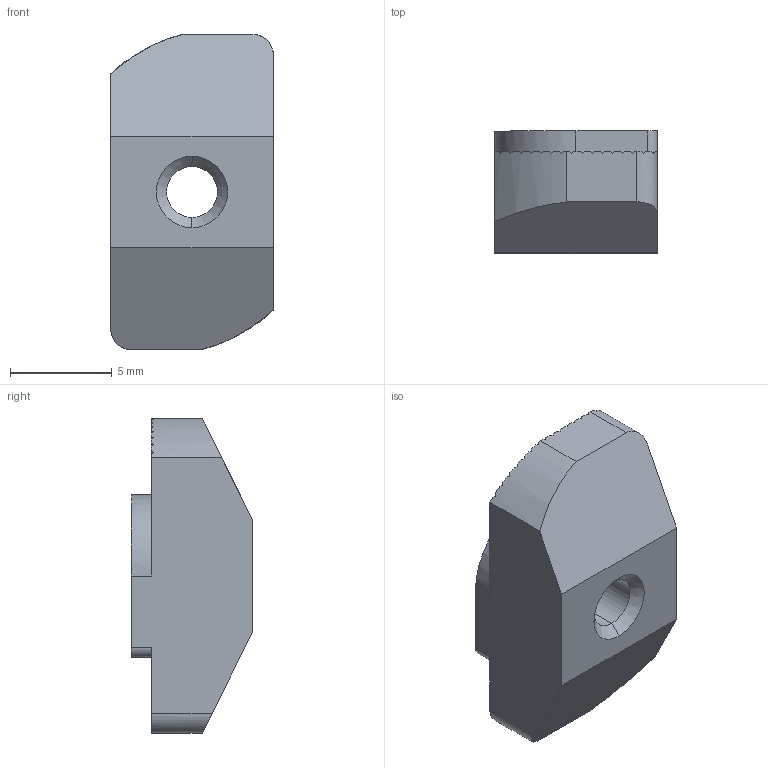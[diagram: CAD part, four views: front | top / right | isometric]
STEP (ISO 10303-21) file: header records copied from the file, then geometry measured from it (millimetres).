
FILE_DESCRIPTION (( 'STEP AP203' ), '1' );
FILE_NAME ('LIMA-RN4-83030.STEP', '2018-03-15T12:23:22', ( '' ), ( '' ), 'SwSTEP 2.0', 'SolidWorks 2013', '' );
FILE_SCHEMA (( 'CONFIG_CONTROL_DESIGN' ));
Length unit declared in the file: millimetre
Products named in the file (1): LIMA-RN4-83030
Bounding box: 8 x 6 x 15.5 mm (x, y, z)
Volume: 523.9 mm3; surface area: 477.7 mm2
Topology: 1 solids, 1 shells, 122 faces, 356 edges, 236 vertices
Faces by surface type: plane 108, cylinder 10, cone 4
Entity records: 4085 total; most frequent: CARTESIAN_POINT 943, ORIENTED_EDGE 712, DIRECTION 582, EDGE_CURVE 356, VERTEX_POINT 236, LINE 224, VECTOR 224, AXIS2_PLACEMENT_3D 179
